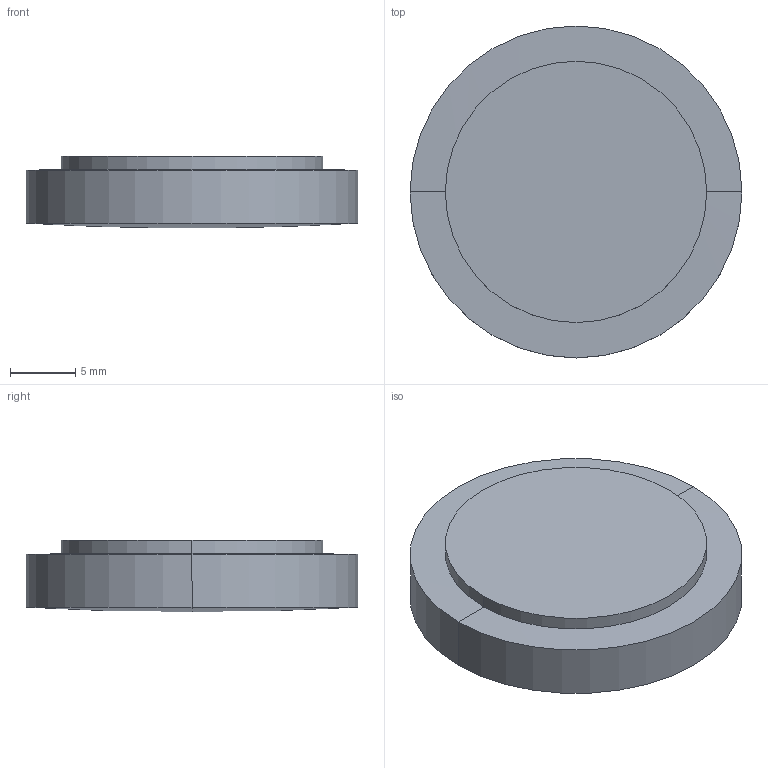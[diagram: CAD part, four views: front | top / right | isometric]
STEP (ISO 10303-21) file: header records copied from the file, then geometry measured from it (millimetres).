
FILE_DESCRIPTION(('STEP AP214'),'1');
FILE_NAME('LLU-25380.STEP','2020-03-09T17:42:10',(' '),(' '),'Spatial InterOp 3D',' ',' ');
FILE_SCHEMA(('AUTOMOTIVE_DESIGN { 1 0 10303 214 1 1 1 1 }'));
Length unit declared in the file: millimetre
Products named in the file (1): 1
Bounding box: 25.4 x 25.4 x 5.5 mm (x, y, z)
Volume: 2483.5 mm3; surface area: 2029.2 mm2
Topology: 2 solids, 2 shells, 10 faces, 20 edges, 10 vertices
Faces by surface type: sphere 4, cylinder 4, plane 2
Entity records: 255 total; most frequent: DIRECTION 52, CARTESIAN_POINT 38, ORIENTED_EDGE 32, AXIS2_PLACEMENT_3D 24, EDGE_CURVE 16, CIRCLE 12, ADVANCED_FACE 10, FACE_OUTER_BOUND 10
